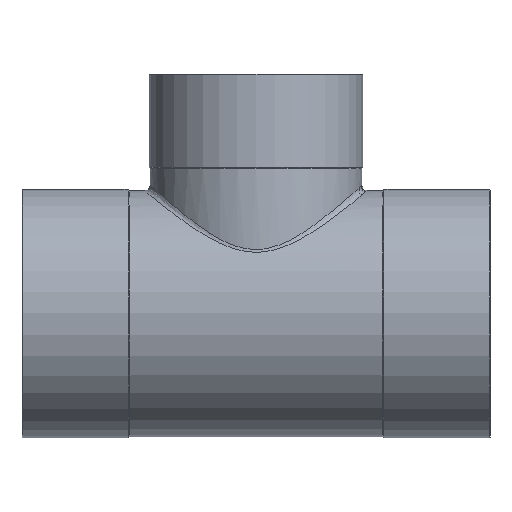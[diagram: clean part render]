
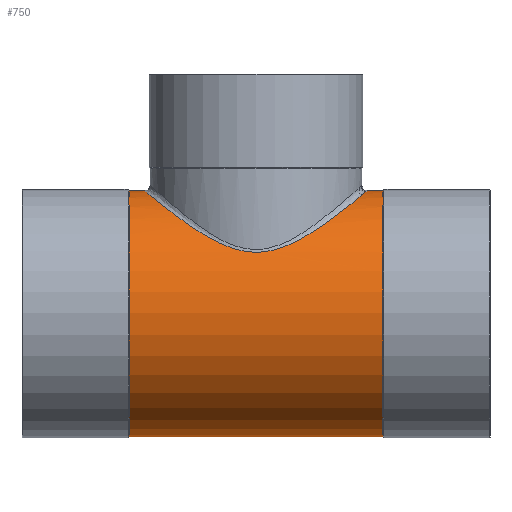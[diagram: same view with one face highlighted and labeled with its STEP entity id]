
A CAD part, top view. The second image highlights one B-rep face of the part: STEP entity #750.
In plain terms, the highlighted cylindrical face has radius 46.25 mm (diameter 92.5 mm), a partial arc.
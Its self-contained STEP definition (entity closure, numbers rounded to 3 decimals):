
#133=CARTESIAN_POINT('',(47.68,46.25,0.0));
#134=VERTEX_POINT('',#133);
#143=CARTESIAN_POINT('',(47.68,-46.25,0.));
#144=VERTEX_POINT('',#143);
#145=CARTESIAN_POINT('',(47.68,0.0,0.0));
#146=DIRECTION('',(1.0,0.0,0.0));
#147=DIRECTION('',(0.0,1.0,0.0));
#148=AXIS2_PLACEMENT_3D('',#145,#146,#147);
#149=CIRCLE('',#148,46.25);
#150=EDGE_CURVE('',#134,#144,#149,.T.);
#177=CARTESIAN_POINT('',(-47.68,46.25,0.0));
#178=VERTEX_POINT('',#177);
#194=CARTESIAN_POINT('',(-47.68,-46.25,0.));
#195=VERTEX_POINT('',#194);
#202=CARTESIAN_POINT('',(-47.68,0.0,0.0));
#203=DIRECTION('',(1.0,0.0,0.0));
#204=DIRECTION('',(0.0,1.0,0.0));
#205=AXIS2_PLACEMENT_3D('',#202,#203,#204);
#206=CIRCLE('',#205,46.25);
#207=EDGE_CURVE('',#178,#195,#206,.T.);
#698=CARTESIAN_POINT('',(23.84,0.0,0.0));
#699=DIRECTION('',(1.0,0.0,0.0));
#700=DIRECTION('',(0.0,1.0,0.0));
#701=AXIS2_PLACEMENT_3D('',#698,#699,#700);
#702=CYLINDRICAL_SURFACE('',#701,46.25);
#703=CARTESIAN_POINT('',(-41.95,46.25,0.));
#704=VERTEX_POINT('',#703);
#705=CARTESIAN_POINT('',(-47.68,46.25,0.0));
#706=DIRECTION('',(1.0,0.0,0.0));
#707=VECTOR('',#706,5.73);
#708=LINE('',#705,#707);
#709=EDGE_CURVE('',#178,#704,#708,.T.);
#710=ORIENTED_EDGE('',*,*,#709,.F.);
#711=ORIENTED_EDGE('',*,*,#207,.T.);
#712=CARTESIAN_POINT('',(47.68,-46.25,0.));
#713=DIRECTION('',(-1.0,0.0,0.0));
#714=VECTOR('',#713,95.36);
#715=LINE('',#712,#714);
#716=EDGE_CURVE('',#144,#195,#715,.T.);
#717=ORIENTED_EDGE('',*,*,#716,.F.);
#718=ORIENTED_EDGE('',*,*,#150,.F.);
#719=CARTESIAN_POINT('',(41.95,46.25,0.));
#720=VERTEX_POINT('',#719);
#721=CARTESIAN_POINT('',(41.95,46.25,0.));
#722=DIRECTION('',(1.0,0.0,0.0));
#723=VECTOR('',#722,5.73);
#724=LINE('',#721,#723);
#725=EDGE_CURVE('',#720,#134,#724,.T.);
#726=ORIENTED_EDGE('',*,*,#725,.F.);
#727=CARTESIAN_POINT('',(-41.95,46.25,0.));
#728=CARTESIAN_POINT('',(-41.95,46.25,1.592));
#729=CARTESIAN_POINT('',(-41.849,46.166,3.202));
#730=CARTESIAN_POINT('',(-40.63,45.156,12.916));
#731=CARTESIAN_POINT('',(-36.978,42.094,20.321));
#732=CARTESIAN_POINT('',(-28.002,35.227,30.467));
#733=CARTESIAN_POINT('',(-23.136,31.622,33.986));
#734=CARTESIAN_POINT('',(-12.409,25.572,38.713));
#735=CARTESIAN_POINT('',(-6.312,22.968,40.144));
#736=CARTESIAN_POINT('',(5.36,23.019,40.114));
#737=CARTESIAN_POINT('',(10.42,24.803,39.133));
#738=CARTESIAN_POINT('',(19.264,29.248,35.932));
#739=CARTESIAN_POINT('',(23.202,31.88,33.717));
#740=CARTESIAN_POINT('',(32.763,38.679,26.156));
#741=CARTESIAN_POINT('',(37.648,42.711,19.57));
#742=CARTESIAN_POINT('',(41.325,45.729,7.897));
#743=CARTESIAN_POINT('',(41.95,46.25,3.947));
#744=CARTESIAN_POINT('',(41.95,46.25,0.));
#745=B_SPLINE_CURVE_WITH_KNOTS('',3,(#727,#728,#729,#730,#731,#732,#733,#734,#735,#736,#737,#738,#739,#740,#741,#742,#743,#744),.UNSPECIFIED.,.F.,.U.,(4,2,2,2,2,2,2,2,4),(6.574,7.039,9.431,11.37,13.158,14.618,16.078,18.574,19.723),.UNSPECIFIED.);
#746=EDGE_CURVE('',#704,#720,#745,.T.);
#747=ORIENTED_EDGE('',*,*,#746,.F.);
#748=EDGE_LOOP('',(#710,#711,#717,#718,#726,#747));
#749=FACE_OUTER_BOUND('',#748,.T.);
#750=ADVANCED_FACE('',(#749),#702,.T.);
